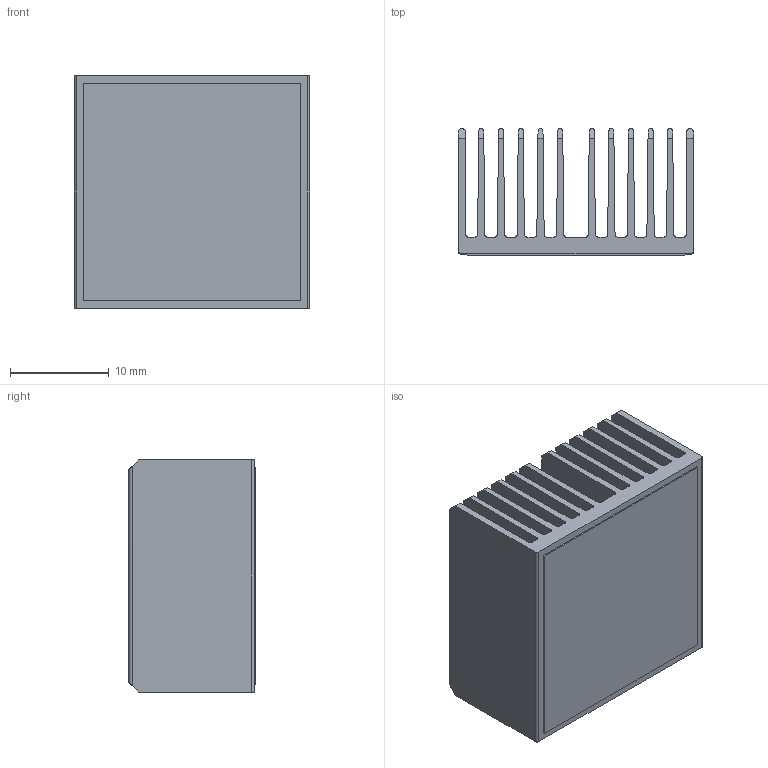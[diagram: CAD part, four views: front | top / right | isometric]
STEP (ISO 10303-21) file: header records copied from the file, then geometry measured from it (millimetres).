
FILE_DESCRIPTION (( 'STEP AP214' ), '1' );
FILE_NAME ('INL24001-13-1.7.STEP', '2023-02-21T18:22:15', ( '' ), ( '' ), 'SwSTEP 2.0', 'SolidWorks 2020', '' );
FILE_SCHEMA (( 'AUTOMOTIVE_DESIGN' ));
Length unit declared in the file: millimetre
Products named in the file (1): INL24001-13-1.7
Bounding box: 23.8 x 12.83 x 23.5 mm (x, y, z)
Volume: 2986.6 mm3; surface area: 8420.7 mm2
Topology: 2 solids, 2 shells, 104 faces, 300 edges, 200 vertices
Faces by surface type: plane 68, cylinder 36
Entity records: 4579 total; most frequent: CARTESIAN_POINT 677, ORIENTED_EDGE 600, DIRECTION 534, EDGE_CURVE 300, LINE 228, VECTOR 228, VERTEX_POINT 200, AXIS2_PLACEMENT_3D 153
